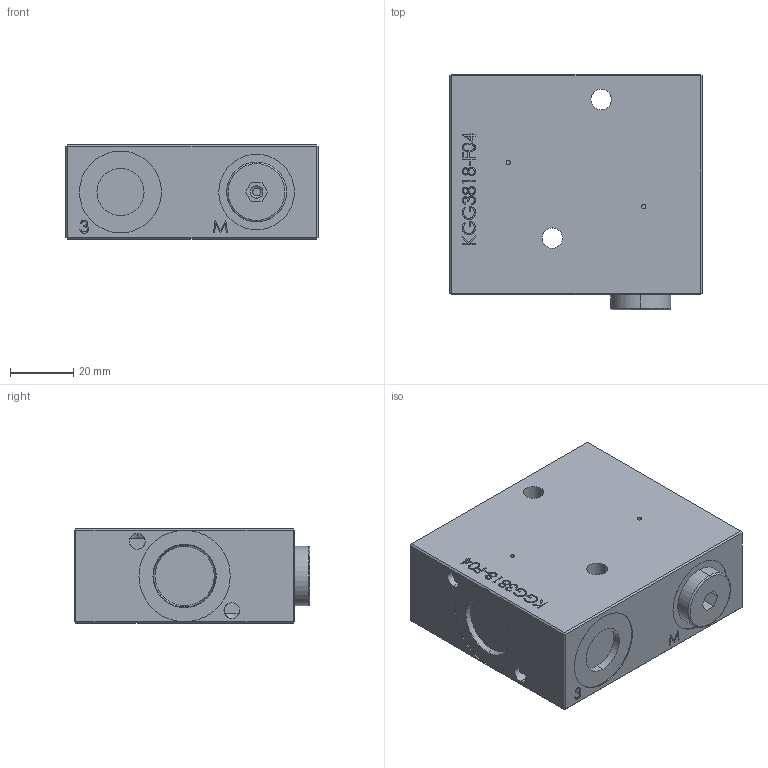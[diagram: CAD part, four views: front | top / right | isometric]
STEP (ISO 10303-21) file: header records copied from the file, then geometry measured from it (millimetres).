
FILE_DESCRIPTION (( 'STEP AP214' ), '1' );
FILE_NAME ('KGG3818-F04.STEP', '2016-11-28T07:46:17', ( '' ), ( '' ), 'SwSTEP 2.0', 'SolidWorks 2014', '' );
FILE_SCHEMA (( 'AUTOMOTIVE_DESIGN' ));
Length unit declared in the file: millimetre
Products named in the file (2): KGG3818-F04
Bounding box: 80 x 74.7 x 30 mm (x, y, z)
Volume: 164204.3 mm3; surface area: 23250.1 mm2
Topology: 2 solids, 3 shells, 303 faces, 750 edges, 489 vertices
Faces by surface type: plane 159, bspline 95, cylinder 38, cone 7, torus 4
Entity records: 17711 total; most frequent: CARTESIAN_POINT 7806, ORIENTED_EDGE 1500, DIRECTION 1073, EDGE_CURVE 750, VERTEX_POINT 489, LINE 461, VECTOR 461, EDGE_LOOP 347
